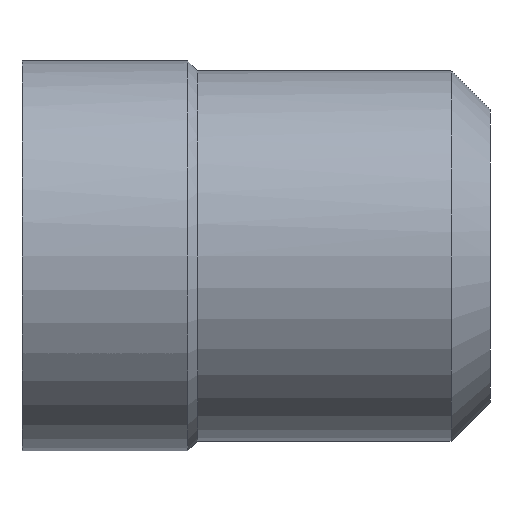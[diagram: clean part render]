
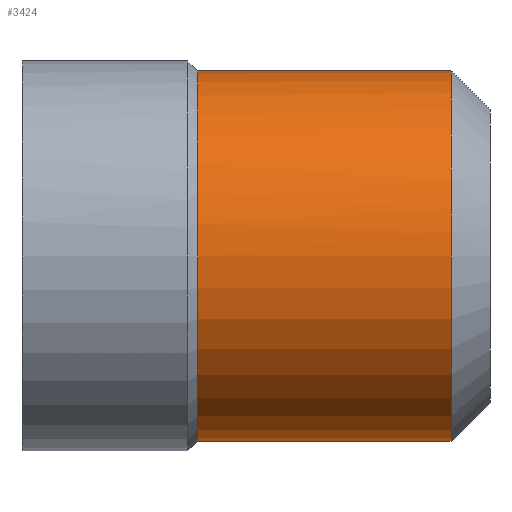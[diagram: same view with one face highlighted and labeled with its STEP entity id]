
A CAD part, front view. The second image highlights one B-rep face of the part: STEP entity #3424.
In plain terms, the highlighted cylindrical face has radius 4.75 mm (diameter 9.5 mm), a partial arc.
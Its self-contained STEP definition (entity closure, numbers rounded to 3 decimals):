
#2996=CARTESIAN_POINT('Vertex',(4.5,0.,4.75)) ;
#3010=CARTESIAN_POINT('Vertex',(4.5,0.,-4.75)) ;
#3032=CARTESIAN_POINT('Axis2P3D Location',(4.5,0.,0.)) ;
#3036=CARTESIAN_POINT('Vertex',(4.5,-4.75,0.)) ;
#3039=CARTESIAN_POINT('Axis2P3D Location',(4.5,0.,0.)) ;
#3358=CARTESIAN_POINT('Line Origine',(4.564,0.,-4.75)) ;
#3362=CARTESIAN_POINT('Vertex',(11.,0.,-4.75)) ;
#3365=CARTESIAN_POINT('Line Origine',(4.564,0.,4.75)) ;
#3369=CARTESIAN_POINT('Vertex',(11.,0.,4.75)) ;
#3396=CARTESIAN_POINT('Axis2P3D Location',(4.564,0.,0.)) ;
#3401=CARTESIAN_POINT('Axis2P3D Location',(11.,0.,0.)) ;
#3405=CARTESIAN_POINT('Vertex',(11.,-4.75,0.)) ;
#3409=CARTESIAN_POINT('Control Point',(11.,0.,4.75)) ;
#3410=CARTESIAN_POINT('Control Point',(11.,-1.492,4.75)) ;
#3411=CARTESIAN_POINT('Control Point',(11.,-2.986,4.166)) ;
#3412=CARTESIAN_POINT('Control Point',(11.,-4.166,2.986)) ;
#3413=CARTESIAN_POINT('Control Point',(11.,-4.75,1.492)) ;
#3414=CARTESIAN_POINT('Control Point',(11.,-4.75,0.)) ;
#3033=DIRECTION('Axis2P3D Direction',(-1.,0.,0.)) ;
#3040=DIRECTION('Axis2P3D Direction',(-1.,0.,0.)) ;
#3359=DIRECTION('Vector Direction',(-1.,0.,0.)) ;
#3366=DIRECTION('Vector Direction',(-1.,0.,0.)) ;
#3397=DIRECTION('Axis2P3D Direction',(-1.,-0.,-0.)) ;
#3398=DIRECTION('Axis2P3D XDirection',(0.,0.,-1.)) ;
#3402=DIRECTION('Axis2P3D Direction',(-1.,-0.,-0.)) ;
#3034=AXIS2_PLACEMENT_3D('Circle Axis2P3D',#3032,#3033,$) ;
#3041=AXIS2_PLACEMENT_3D('Circle Axis2P3D',#3039,#3040,$) ;
#3399=AXIS2_PLACEMENT_3D('Cylinder Axis2P3D',#3396,#3397,#3398) ;
#3403=AXIS2_PLACEMENT_3D('Circle Axis2P3D',#3401,#3402,$) ;
#3417=ORIENTED_EDGE('',*,*,#3371,.T.) ;
#3418=ORIENTED_EDGE('',*,*,#3043,.T.) ;
#3419=ORIENTED_EDGE('',*,*,#3038,.T.) ;
#3420=ORIENTED_EDGE('',*,*,#3364,.T.) ;
#3421=ORIENTED_EDGE('',*,*,#3407,.F.) ;
#3422=ORIENTED_EDGE('',*,*,#3415,.F.) ;
#3360=VECTOR('Line Direction',#3359,1.) ;
#3367=VECTOR('Line Direction',#3366,1.) ;
#3424=ADVANCED_FACE('MSO410',(#3423),#3400,.T.) ;
#3408=B_SPLINE_CURVE_WITH_KNOTS('',5,(#3409,#3410,#3411,#3412,#3413,#3414),.UNSPECIFIED.,.F.,.U.,(6,6),(-3.731,3.731),.UNSPECIFIED.) ;
#3035=CIRCLE('generated circle',#3034,4.75) ;
#3042=CIRCLE('generated circle',#3041,4.75) ;
#3404=CIRCLE('generated circle',#3403,4.75) ;
#3400=CYLINDRICAL_SURFACE('generated cylinder',#3399,4.75) ;
#3038=EDGE_CURVE('',#3037,#3011,#3035,.F.) ;
#3043=EDGE_CURVE('',#2997,#3037,#3042,.F.) ;
#3364=EDGE_CURVE('',#3011,#3363,#3361,.F.) ;
#3371=EDGE_CURVE('',#3370,#2997,#3368,.T.) ;
#3407=EDGE_CURVE('',#3406,#3363,#3404,.F.) ;
#3415=EDGE_CURVE('',#3370,#3406,#3408,.T.) ;
#3416=EDGE_LOOP('',(#3417,#3418,#3419,#3420,#3421,#3422)) ;
#3423=FACE_OUTER_BOUND('',#3416,.T.) ;
#3361=LINE('Line',#3358,#3360) ;
#3368=LINE('Line',#3365,#3367) ;
#2997=VERTEX_POINT('',#2996) ;
#3011=VERTEX_POINT('',#3010) ;
#3037=VERTEX_POINT('',#3036) ;
#3363=VERTEX_POINT('',#3362) ;
#3370=VERTEX_POINT('',#3369) ;
#3406=VERTEX_POINT('',#3405) ;
